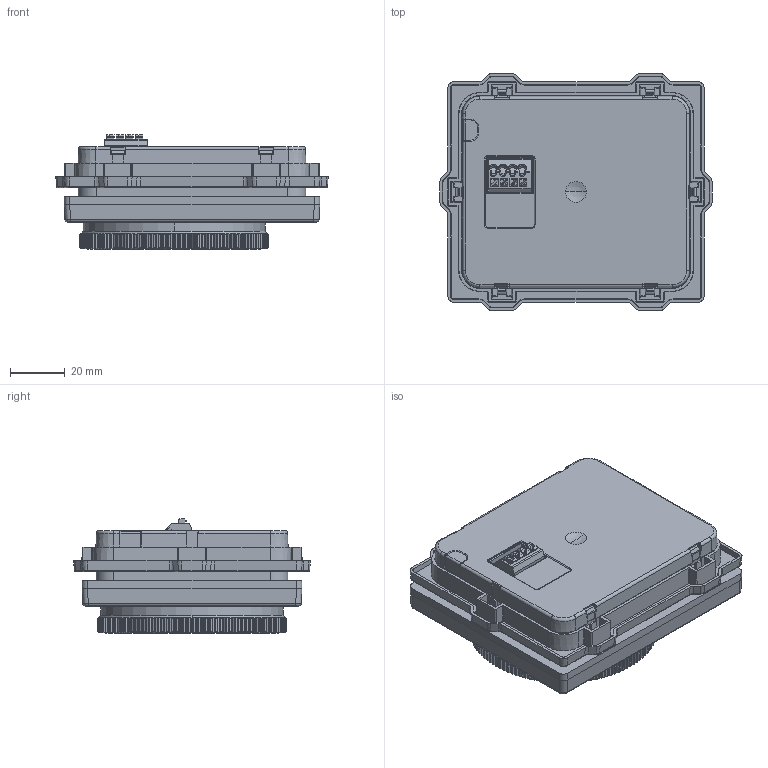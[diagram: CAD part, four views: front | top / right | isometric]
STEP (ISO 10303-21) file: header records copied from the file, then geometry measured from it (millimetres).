
FILE_DESCRIPTION((''),'2;1');
FILE_NAME('15011975Z','2017-12-29T',('Ennio'),(''),'PRO/ENGINEER BY PARAMETRIC TECHNOLOGY CORPORATION, 2015200','PRO/ENGINEER BY PARAMETRIC TECHNOLOGY CORPORATION, 2015200','');
FILE_SCHEMA(('AUTOMOTIVE_DESIGN { 1 0 10303 214 1 1 1 1 }'));
Products named in the file (1): 15011975Z
Bounding box: 99.26 x 86.26 x 41.56 mm (x, y, z)
Volume: 80284.4 mm3; surface area: 101773 mm2
Topology: 2 solids, 8 shells, 2648 faces, 7612 edges, 4976 vertices
Faces by surface type: plane 1451, cylinder 836, cone 189, torus 74, extrusion 61, bspline 23, sphere 14
Entity records: 129882 total; most frequent: CARTESIAN_POINT 22963, ORIENTED_EDGE 15204, DIRECTION 13609, PRESENTATION_STYLE_ASSIGNMENT 9645, STYLED_ITEM 7665, CURVE_STYLE 7663, EDGE_CURVE 7602, VERTEX_POINT 4976
